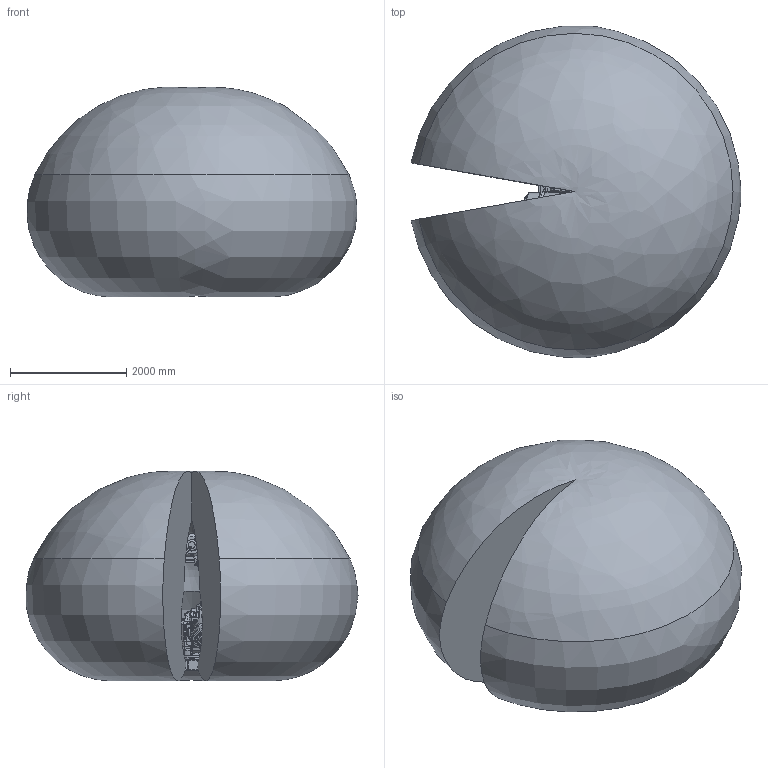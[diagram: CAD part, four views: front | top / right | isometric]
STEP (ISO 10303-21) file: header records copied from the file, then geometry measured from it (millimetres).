
FILE_DESCRIPTION(/* description */ (''),/* implementation_level */ '2;1');
FILE_NAME(/* name */ 'E:\组装完成的图纸\IRB 6700\IRB 6700Inv-245-2.9\IRB 6700Inv-245-2.9.stp',/* time_stamp */ '2023-11-04T19:52:36+08:00',/* author */ ('Administrator'),/* organization */ (''),/* preprocessor_version */ 'ST-DEVELOPER v16.5',/* originating_system */ 'Autodesk Inventor 2017',/* authorisation */ '');
FILE_SCHEMA (('AUTOMOTIVE_DESIGN { 1 0 10303 214 3 1 1 }'));
Products named in the file (17): 部件5; IRB6700Inv_245-290_IRC5_rev00_BASE_CAD; IRB6700Inv_245-290_IRC5_rev00_CYLINDER_CAD; IRB6700Inv_245-290_IRC5_rev00_LINK01_CAD; IRB6700Inv_245-290_IRC5_rev00_LINK01m_CABLE; IRB6700Inv_245-290_IRC5_rev00_LINK02_CAD; IRB6700Inv_245-290_IRC5_rev00_LINK02m_CABLE; IRB6700Inv_245-290_IRC5_rev00_LINK03_CAD; IRB6700Inv_245-290_IRC5_rev00_LINK03m_CABLE; IRB6700Inv_245-290_IRC5_rev00_LINK04_CAD; IRB6700Inv_245-290_IRC5_rev00_LINK05_CAD; IRB6700Inv_245-290_IRC5_rev00_LINK06_CAD; IRB6700Inv_245-290_IRC5_rev00_LOGO1_CAD; IRB6700Inv_245-290_IRC5_rev00_LOGO2_CAD; IRB6700Inv_245-290_IRC5_rev00_LOGO3_CAD; IRB6700Inv_245-290_IRC5_rev00_ROD_CAD; IRB6700Inv_290_Working-space-forward
Assembly tree (16 placements, depth 2):
  部件5
    IRB6700Inv_245-290_IRC5_rev00_BASE_CAD
    IRB6700Inv_245-290_IRC5_rev00_CYLINDER_CAD
    IRB6700Inv_245-290_IRC5_rev00_LINK01_CAD
    IRB6700Inv_245-290_IRC5_rev00_LINK01m_CABLE
    IRB6700Inv_245-290_IRC5_rev00_LINK02_CAD
    IRB6700Inv_245-290_IRC5_rev00_LINK02m_CABLE
    IRB6700Inv_245-290_IRC5_rev00_LINK03_CAD
    IRB6700Inv_245-290_IRC5_rev00_LINK03m_CABLE
    IRB6700Inv_245-290_IRC5_rev00_LINK04_CAD
    IRB6700Inv_245-290_IRC5_rev00_LINK05_CAD
    IRB6700Inv_245-290_IRC5_rev00_LINK06_CAD
    IRB6700Inv_245-290_IRC5_rev00_LOGO1_CAD
    IRB6700Inv_245-290_IRC5_rev00_LOGO2_CAD
    IRB6700Inv_245-290_IRC5_rev00_LOGO3_CAD
    IRB6700Inv_245-290_IRC5_rev00_ROD_CAD
    IRB6700Inv_290_Working-space-forward
Bounding box: 5679.09 x 5715.62 x 3612.76 mm (x, y, z)
Volume: 59266151867.6 mm3; surface area: 119020612.1 mm2
Topology: 17 solids, 19 shells, 4626 faces, 11752 edges, 7711 vertices
Faces by surface type: plane 3029, cylinder 815, cone 395, bspline 368, torus 17, sphere 2
Full cylindrical faces by diameter (mm): 5 x13, 5.45 x1, 6.5 x6, 6.6 x4, 6.8 x22, 7 x2, 8.3 x4, 8.5 x8, 9 x3, 10.2 x40, 11.05 x2, 11.3 x2, 11.363 x1, 11.366 x1, 12 x10, 13 x4, 13.27 x8, 14 x26, 14.9 x1, 16 x14, 16.27 x24, 17 x13, 17.5 x8, 18 x2, 18.27 x40, 18.5 x32, 19 x33, 19.75 x2, 20 x3, 20.614 x2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
Entity records: 251618 total; most frequent: CARTESIAN_POINT 143625, ORIENTED_EDGE 21998, DIRECTION 20937, EDGE_CURVE 10999, VERTEX_POINT 7594, AXIS2_PLACEMENT_3D 7125, LINE 6687, VECTOR 6687
